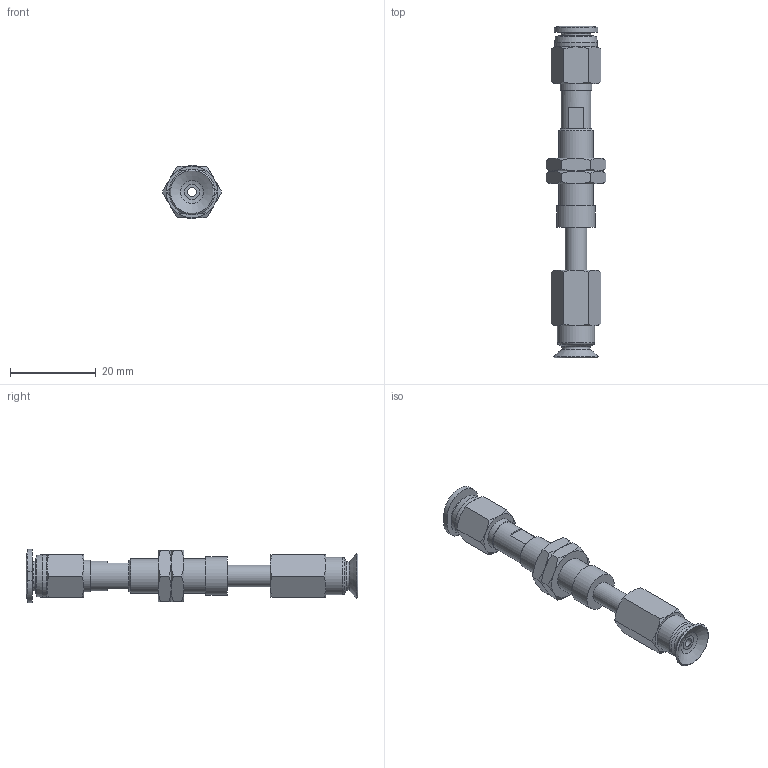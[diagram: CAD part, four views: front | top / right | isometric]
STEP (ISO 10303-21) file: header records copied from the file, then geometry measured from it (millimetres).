
FILE_DESCRIPTION(('STEP AP203'),'1');
FILE_NAME('-O.stp','2025-08-27T05:46:44',(' '),(' '),'Spatial InterOp 3D',' ',' ');
FILE_SCHEMA(('CONFIG_CONTROL_DESIGN'));
Length unit declared in the file: millimetre
Products named in the file (7): BNABPFTS-10A-10-※-O; ADAPTER; NAPATS-10A-10--M; Nut-10A-10-s; NAPFTS-10A-10-FBODY; BPFG-10A-※; PC-C_06-M5
Assembly tree (7 placements, depth 2):
  BNABPFTS-10A-10-※-O
    ADAPTER
    NAPATS-10A-10--M
    Nut-10A-10-s  x2
    NAPFTS-10A-10-FBODY
    BPFG-10A-※
    PC-C_06-M5
Bounding box: 13.86 x 77.48 x 12.4 mm (x, y, z)
Volume: 3492.6 mm3; surface area: 5176.1 mm2
Topology: 6 solids, 9 shells, 164 faces, 336 edges, 203 vertices
Faces by surface type: cone 62, plane 59, cylinder 25, torus 10, bspline 5, revolution 3
Full cylindrical faces by diameter (mm): 2 x3, 4 x4, 4.134 x1, 5 x3, 6 x2, 7 x2, 7.188 x2, 7.4 x1, 8 x1, 8.2 x1, 8.7 x1, 9 x1, 10 x1
Entity records: 4179 total; most frequent: CARTESIAN_POINT 1209, DIRECTION 549, ORIENTED_EDGE 458, AXIS2_PLACEMENT_3D 253, EDGE_CURVE 231, EDGE_LOOP 214, VERTEX_POINT 165, FACE_OUTER_BOUND 114
